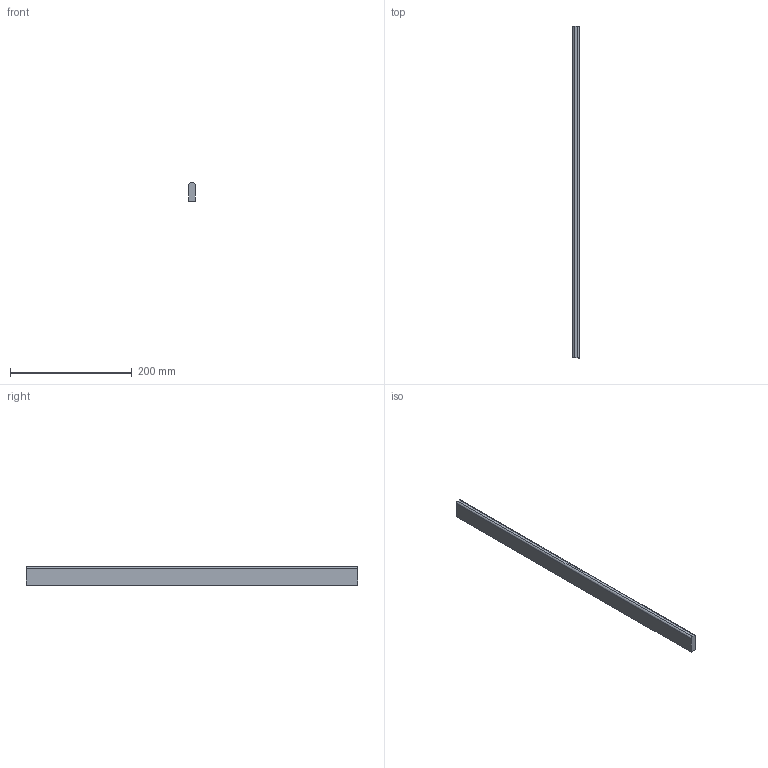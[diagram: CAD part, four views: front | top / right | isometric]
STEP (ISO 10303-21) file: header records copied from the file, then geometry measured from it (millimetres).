
FILE_DESCRIPTION (( 'STEP AP214' ), '1' );
FILE_NAME ('_Seitenreling_SP60700300_RL545.step', '2010-09-06T14:52:16', ( 'grass' ), ( '' ), 'SwSTEP 2.0', 'SolidWorks 2010', '' );
FILE_SCHEMA (( 'AUTOMOTIVE_DESIGN' ));
Length unit declared in the file: millimetre
Products named in the file (1): _Seitenreling_SP60700300_RL545
Bounding box: 10.5 x 545 x 30 mm (x, y, z)
Volume: 169569.8 mm3; surface area: 43363.8 mm2
Topology: 1 solids, 1 shells, 8 faces, 18 edges, 12 vertices
Faces by surface type: plane 6, cylinder 2
Entity records: 260 total; most frequent: DIRECTION 40, CARTESIAN_POINT 39, ORIENTED_EDGE 36, EDGE_CURVE 18, LINE 14, VECTOR 14, AXIS2_PLACEMENT_3D 13, VERTEX_POINT 12
